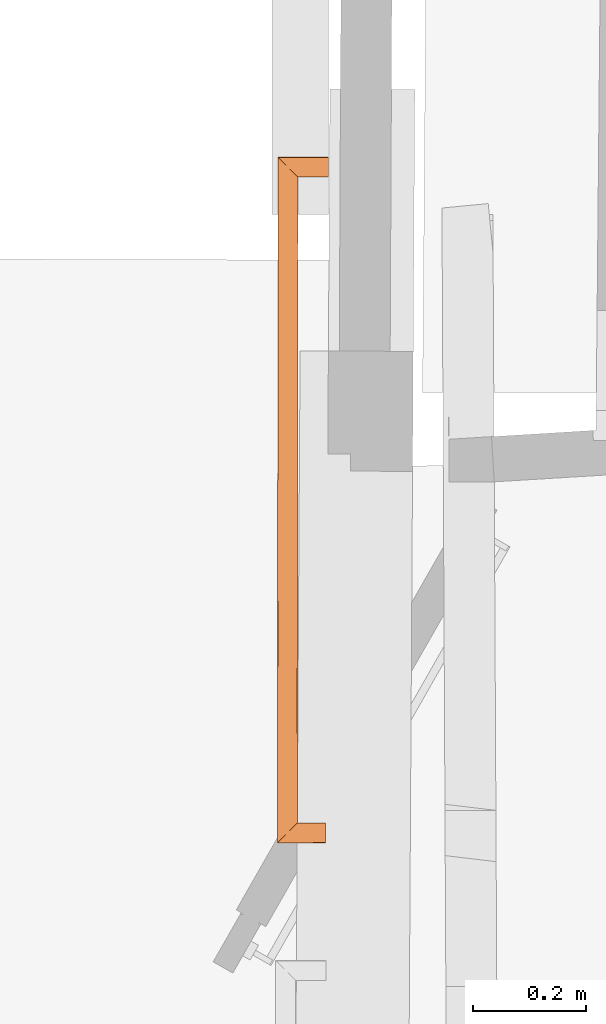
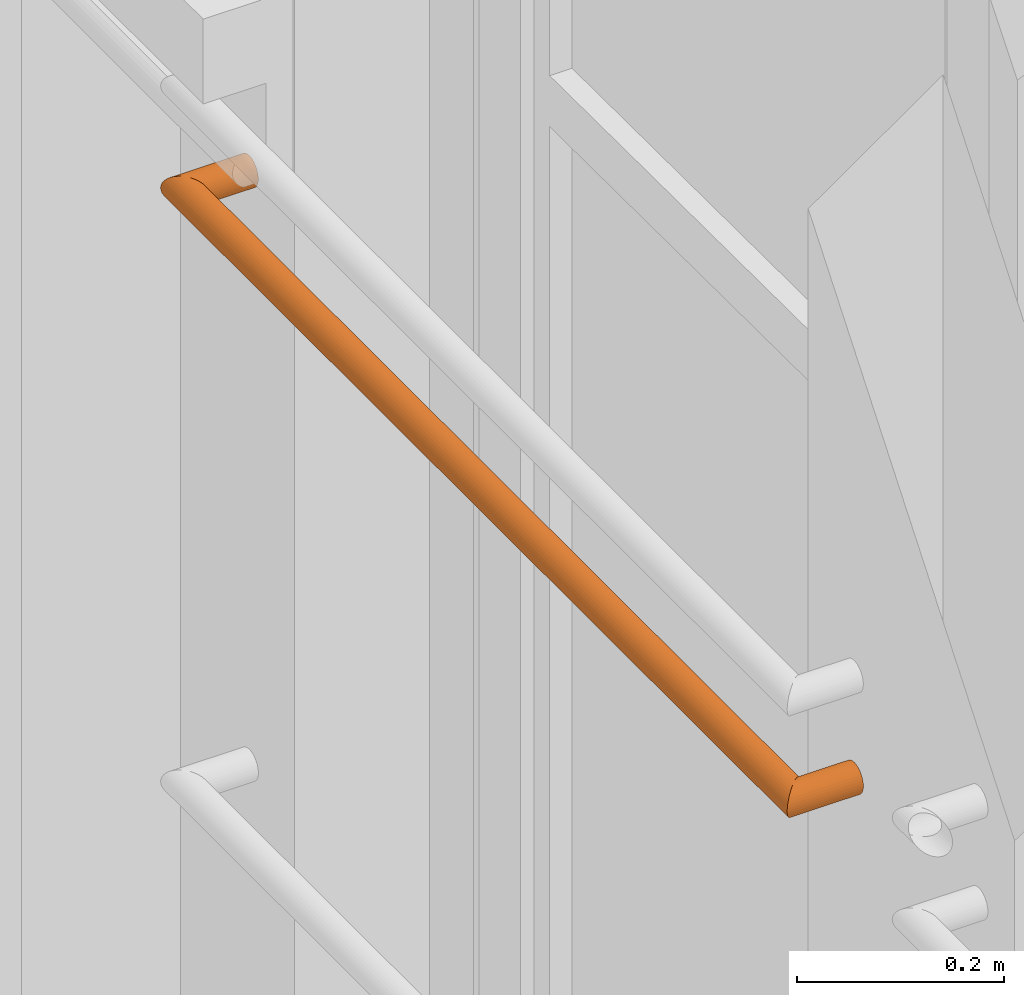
# One storey, part 91 of 97: 1 proxy.
"""IFC2X3 building model written with IfcOpenShell, lengths in centimetres."""

from ifc_helpers import new_model, entity, si_unit, converted_unit, direction, origin, origin_with_axes, place, context, subcontext, project, spatial, faceted_brep, material, type_object, element, save


model = new_model("IFC2X3")

# Units and contexts
model_context = context("Model", 3, precision=0.0001, world=origin(), true_north=direction((0.225632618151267, 0.974212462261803, 0.0)))
body_context = subcontext(model_context, "Body", "Model", "MODEL_VIEW")
ifc_project = project(units=[si_unit("LENGTHUNIT", "METRE", prefix="CENTI"), si_unit("AREAUNIT", "SQUARE_METRE", prefix="CENTI"), si_unit("VOLUMEUNIT", "CUBIC_METRE", prefix="CENTI"), converted_unit("PLANEANGLEUNIT", "DEGREE", entity("IfcRatioMeasure", 0.0174532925), si_unit("PLANEANGLEUNIT", "RADIAN"), dimensions=[0, 0, 0, 0, 0, 0, 0])], contexts=[model_context])

# Site, building, storey
site_placement = place(None, origin_with_axes())
site = spatial("IfcSite", under=ifc_project, at=site_placement, Name="Default Site", CompositionType="ELEMENT")
building_placement = place(site_placement, origin_with_axes())
building = spatial("IfcBuilding", under=site, at=building_placement, Name="Default Building", CompositionType="ELEMENT")
storey_placement = place(building_placement, origin_with_axes())
storey = spatial("IfcBuildingStorey", under=building, at=storey_placement, Name="Rez-de-chaussée", CompositionType="ELEMENT", Elevation=0.0)

# Proxy
ifc_material = material(Name="Aluminium mat")
building_element_proxy_type = type_object("IfcBuildingElementProxyType", Name="Profil [C] Ø35mm", PredefinedType="NOTDEFINED", material=ifc_material)
proxy_placement = place(storey_placement, origin_with_axes())
element("IfcBuildingElementProxy", 1, at=proxy_placement, inside=storey, type_object=building_element_proxy_type, material=ifc_material, Name="Extrusion (solide) 1702446", context=body_context, shape_type="Brep", body=[
    faceted_brep([(-1369.5200920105, -54.8992037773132, 438.000011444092), (-1369.49348449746, -54.8726384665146, 437.696123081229), (-1361.0199928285, -54.8794807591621, 437.696123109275), (-1361.019992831, -54.9060675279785, 438.000011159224), (-1369.49348449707, -54.8726379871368, 437.696123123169), (-1369.41442489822, -54.7937536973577, 437.401484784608), (-1361.01989746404, -54.8005321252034, 437.401484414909), (-1361.01999282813, -54.8794802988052, 437.69612320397), (-1369.41442489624, -54.7937512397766, 437.401485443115), (-1369.2853927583, -54.6649360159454, 437.125016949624), (-1361.01980209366, -54.6716095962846, 437.125015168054), (-1361.01989746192, -54.8005295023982, 437.401484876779), (-1369.28539276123, -54.6649396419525, 437.125015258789), (-1369.11029814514, -54.4900988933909, 436.875114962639), (-1361.01970671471, -54.4966318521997, 436.87511475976), (-1361.01980209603, -54.6716125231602, 437.12501307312), (-1369.11029815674, -54.4901132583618, 436.875104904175), (-1368.8944816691, -54.2746014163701, 436.659418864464), (-1361.01951600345, -54.2809578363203, 436.659416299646), (-1361.01970672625, -54.496646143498, 436.875104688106), (-1368.89448165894, -54.2745888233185, 436.65943145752), (-1368.64433287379, -54.0248961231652, 436.484453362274), (-1361.01932524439, -54.0310532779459, 436.48445336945), (-1361.01951599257, -54.2809443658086, 436.659429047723), (-1368.64433288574, -54.0249109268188, 436.484432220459), (-1368.3676719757, -53.748678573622, 436.355518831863), (-1361.01903916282, -53.7546147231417, 436.35551984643), (-1361.01932525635, -54.0310680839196, 436.484432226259), (-1368.36767196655, -53.7486672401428, 436.355543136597), (-1368.07279586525, -53.4542527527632, 436.276591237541), (-1361.0188484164, -53.4599508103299, 436.276591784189), (-1361.01903915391, -53.7546036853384, 436.355543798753), (-1368.07279586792, -53.4542560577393, 436.276578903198), (-1367.76866913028, -53.1506203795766, 436.249992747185), (-1361.01856231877, -53.1560682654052, 436.249992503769), (-1361.01884841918, -53.4599542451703, 436.276579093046), (-1367.76866912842, -53.1506180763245, 436.250019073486), (-1367.46454239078, -52.8469823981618, 436.2766052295), (-1361.0183715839, -52.8521858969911, 436.276605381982), (-1361.01856231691, -53.1560659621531, 436.250019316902), (-1367.46454238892, -52.8469800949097, 436.276578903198), (-1367.16966628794, -52.5525600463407, 436.35553229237), (-1361.01808547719, -52.5575308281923, 436.355531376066), (-1361.01837158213, -52.8521836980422, 436.27657934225), (-1367.16966629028, -52.5525629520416, 436.355543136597), (-1366.89300537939, -52.2763354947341, 436.484454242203), (-1361.01789475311, -52.2810799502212, 436.484454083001), (-1361.01808547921, -52.5575333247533, 436.355541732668), (-1366.89300537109, -52.2763252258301, 436.484432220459), (-1366.64285658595, -52.0266325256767, 436.659410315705), (-1361.01770399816, -52.0311745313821, 436.659410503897), (-1361.01789474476, -52.2810696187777, 436.484432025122), (-1366.6428565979, -52.0266473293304, 436.65943145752), (-1366.42704011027, -51.8111354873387, 436.875117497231), (-1361.01751328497, -51.8155040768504, 436.87511706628), (-1361.01770401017, -52.0311894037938, 436.659431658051), (-1366.4270401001, -51.8111228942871, 436.875104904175), (-1366.25185011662, -51.636282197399, 437.125005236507), (-1361.01741789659, -51.6405087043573, 437.125005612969), (-1361.01751327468, -51.8154913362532, 436.875104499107), (-1366.25185012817, -51.6362965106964, 437.125015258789), (-1366.12291335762, -51.5074812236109, 437.401483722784), (-1361.01722717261, -51.5116032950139, 437.401485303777), (-1361.01741790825, -51.6405231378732, 437.125015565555), (-1366.1229133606, -51.5074849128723, 437.401485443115), (-1366.04385376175, -51.4286006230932, 437.696123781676), (-1361.01722717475, -51.4326595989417, 437.696123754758), (-1361.01722717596, -51.5116074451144, 437.401486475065), (-1366.04385375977, -51.4285981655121, 437.696123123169), (-1366.01724624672, -51.4020328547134, 438.000011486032), (-1361.01722717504, -51.4060703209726, 438.00001168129), (-1361.01722717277, -51.4326571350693, 437.696123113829), (-1366.01724624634, -51.4020323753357, 438.000011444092), (-1366.04385375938, -51.4285976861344, 438.303899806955), (-1361.01722717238, -51.4326566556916, 438.303899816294), (-1361.01722717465, -51.4060698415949, 438.000011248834), (-1366.04385375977, -51.4285981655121, 438.303899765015), (-1366.12291335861, -51.5074824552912, 438.598538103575), (-1361.01722717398, -51.5116049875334, 438.598537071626), (-1361.01722717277, -51.4326571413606, 438.303899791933), (-1366.1229133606, -51.5074849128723, 438.598537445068), (-1366.25185013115, -51.6363001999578, 438.875005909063), (-1361.01741791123, -51.6405268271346, 438.875005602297), (-1361.01722717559, -51.5116069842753, 438.598535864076), (-1366.25185012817, -51.6362965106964, 438.875007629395), (-1366.42704009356, -51.8111148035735, 439.124875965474), (-1361.01751326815, -51.8154832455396, 439.124876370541), (-1361.01741790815, -51.6405230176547, 438.875007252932), (-1366.4270401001, -51.8111228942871, 439.124870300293), (-1366.64285660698, -52.0266585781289, 439.340580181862), (-1361.01770401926, -52.0312006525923, 439.34057998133), (-1361.0175132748, -51.8154914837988, 439.124870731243), (-1366.6428565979, -52.0266473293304, 439.340591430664), (-1366.89300536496, -52.2763176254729, 439.515553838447), (-1361.01789473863, -52.2810620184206, 439.515554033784), (-1361.01770401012, -52.0311893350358, 439.340591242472), (-1366.89300537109, -52.2763252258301, 439.515542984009), (-1367.16966629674, -52.552570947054, 439.644462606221), (-1361.01808548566, -52.5575413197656, 439.64446401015), (-1361.01789474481, -52.2810696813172, 439.515543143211), (-1367.16966629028, -52.5525629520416, 439.644479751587), (-1367.46454238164, -52.8469710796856, 439.723429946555), (-1361.01837157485, -52.8521746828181, 439.723429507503), (-1361.01808547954, -52.5575337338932, 439.64448066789), (-1367.46454238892, -52.8469800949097, 439.72339630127), (-1367.7686691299, -53.1506199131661, 439.749982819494), (-1361.01856231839, -53.1560677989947, 439.749982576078), (-1361.01837158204, -52.852183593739, 439.723396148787), (-1367.76866912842, -53.1506180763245, 439.750003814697), (-1368.0727958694, -53.4542578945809, 439.723417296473), (-1361.01884842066, -53.4599560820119, 439.723417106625), (-1361.01856231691, -53.1560659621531, 439.750004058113), (-1368.07279586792, -53.4542560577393, 439.72339630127), (-1368.3676719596, -53.748658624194, 439.644447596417), (-1361.01903914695, -53.7545950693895, 439.644446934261), (-1361.01884841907, -53.459954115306, 439.723395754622), (-1368.36767196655, -53.7486672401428, 439.644479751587), (-1368.64433289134, -54.024917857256, 439.515557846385), (-1361.01932526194, -54.0310750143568, 439.515557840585), (-1361.01903915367, -53.7546033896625, 439.644478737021), (-1368.64433288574, -54.0249109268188, 439.515542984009), (-1368.8944816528, -54.2745812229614, 439.340580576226), (-1361.01951598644, -54.2809367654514, 439.340582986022), (-1361.01932525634, -54.0310680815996, 439.515542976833), (-1368.89448165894, -54.2745888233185, 439.340591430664), (-1369.11029816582, -54.4901245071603, 439.124881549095), (-1361.01970673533, -54.4966573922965, 439.124881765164), (-1361.01951599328, -54.2809452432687, 439.340593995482), (-1369.11029815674, -54.4901132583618, 439.124870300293), (-1369.28539275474, -54.6649316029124, 438.875002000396), (-1361.01980208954, -54.6716044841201, 438.875004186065), (-1361.01970672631, -54.4966462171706, 439.124870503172), (-1369.28539276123, -54.6649396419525, 438.875007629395), (-1369.41442489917, -54.7937548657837, 438.598539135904), (-1361.01989746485, -54.8005331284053, 438.59853970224), (-1361.01980209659, -54.6716132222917, 438.875009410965), (-1369.41442489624, -54.7937512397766, 438.598537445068), (-1369.49348449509, -54.8726355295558, 438.303899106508), (-1361.01999282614, -54.8794778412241, 438.303899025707), (-1361.01989746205, -54.8005296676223, 438.598537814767), (-1369.49348449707, -54.8726379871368, 438.303899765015), (-1369.52009201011, -54.8992032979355, 438.000011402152), (-1361.01999283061, -54.9060670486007, 438.000011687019), (-1361.01999282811, -54.8794802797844, 438.303899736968), (-1369.42224502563, 66.2952899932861, 438.000011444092), (-1369.39567937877, 66.2687063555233, 437.696119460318), (-1369.49350043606, -54.8726379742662, 437.696121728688), (-1369.52010867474, -54.899203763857, 438.000009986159), (-1369.39563751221, 66.2687063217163, 437.696123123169), (-1369.31675433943, 66.1897539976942, 437.401489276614), (-1369.41444525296, -54.7937512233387, 437.401479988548), (-1369.49346011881, -54.8726380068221, 437.696129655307), (-1369.31676864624, 66.1897540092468, 437.401485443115), (-1369.1879480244, 66.0608351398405, 437.125005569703), (-1369.28542977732, -54.6649396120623, 437.124997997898), (-1369.41445541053, -54.7937512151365, 437.401471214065), (-1369.18792724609, 66.0608351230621, 437.125015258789), (-1369.01309230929, 65.8858716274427, 436.875123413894), (-1369.1102874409, -54.4901132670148, 436.87511240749), (-1369.28540603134, -54.664939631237, 437.125005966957), (-1369.0131187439, 65.8858716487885, 436.875104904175), (-1368.79760387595, 65.6701684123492, 436.659415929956), (-1368.89447784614, -54.2745888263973, 436.659435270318), (-1369.11030987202, -54.4901132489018, 436.875093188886), (-1368.79758834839, 65.6701683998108, 436.65943145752), (-1368.54789957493, 65.4202937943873, 436.484456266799), (-1368.64432748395, -54.0249109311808, 436.484439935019), (-1368.8944689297, -54.2745888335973, 436.659449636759), (-1368.54791641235, 65.4202938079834, 436.484432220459), (-1368.27165465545, 65.1438295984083, 436.355505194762), (-1368.36768428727, -53.7486672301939, 436.355516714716), (-1368.64433909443, -54.0249109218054, 436.484418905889), (-1368.27163696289, 65.1438295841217, 436.355543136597), (-1367.97723358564, 64.8491799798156, 436.276594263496), (-1368.07278981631, -53.4542560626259, 436.276601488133), (-1368.36766995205, -53.7486672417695, 436.355550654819), (-1367.97723770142, 64.849179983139, 436.276578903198), (-1367.67359019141, 64.545291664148, 436.249991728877), (-1367.7686711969, -53.1506180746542, 436.249995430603), (-1368.0727956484, -53.4542560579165, 436.27658141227), (-1367.67358779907, 64.5452916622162, 436.250019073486), (-1367.37003493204, 64.2414093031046, 436.276597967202), (-1367.46454435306, -52.8469800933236, 436.276601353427), (-1367.76866880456, -53.150618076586, 436.25001537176), (-1367.37003326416, 64.2414093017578, 436.276578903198), (-1367.07554090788, 63.9467597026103, 436.355551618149), (-1367.16966486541, -52.5525629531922, 436.355537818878), (-1367.46454500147, -52.8469800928, 436.276588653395), (-1367.07553863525, 63.9467597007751, 436.355543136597), (-1366.79935521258, 63.6702954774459, 436.484433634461), (-1366.89300162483, -52.2763252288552, 436.484424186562), (-1367.16965643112, -52.5525629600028, 436.355521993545), (-1366.79935455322, 63.6702954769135, 436.484432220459), (-1366.54966578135, 63.4204149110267, 436.659407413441), (-1366.6428558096, -52.026647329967, 436.659430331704), (-1366.89299725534, -52.2763252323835, 436.484420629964), (-1366.54968261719, 63.4204149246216, 436.65943145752), (-1366.33416774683, 63.2047176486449, 436.875120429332), (-1366.42704896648, -51.8111228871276, 436.875113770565), (-1366.64288099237, -52.0266473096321, 436.659455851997), (-1366.33415222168, 63.2047176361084, 436.875104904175), (-1366.1593172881, 63.0297481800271, 437.124996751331), (-1366.25188119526, -51.6362964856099, 437.125037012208), (-1366.42703116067, -51.8111229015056, 436.875098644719), (-1366.15934371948, 63.0297482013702, 437.125015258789), (-1366.03052309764, 62.9008293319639, 437.401495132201), (-1366.12291190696, -51.5074849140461, 437.401484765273), (-1366.2519205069, -51.636296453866, 437.125048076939), (-1366.03050231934, 62.9008293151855, 437.401485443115), (-1365.95161914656, 62.8218769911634, 437.696119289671), (-1366.04387324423, -51.4285981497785, 437.696128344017), (-1366.12288811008, -51.5074849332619, 437.401478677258), (-1365.95163345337, 62.8218770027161, 437.696123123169), (-1365.9250678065, 62.7952933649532, 438.000015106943), (-1366.0172814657, -51.4020323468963, 438.000014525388), (-1366.04388970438, -51.428598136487, 437.696126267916), (-1365.92502593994, 62.7952933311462, 438.000011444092), (-1365.95159158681, 62.8218769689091, 438.303903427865), (-1366.04384783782, -51.428598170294, 438.303900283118), (-1366.01723959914, -51.4020323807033, 438.000012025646), (-1365.95163345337, 62.8218770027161, 438.303899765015), (-1366.03051662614, 62.9008293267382, 438.59853361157), (-1366.12290241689, -51.5074849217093, 438.598540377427), (-1366.04388755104, -51.4285981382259, 438.303890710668), (-1366.03050231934, 62.9008293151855, 438.598537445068), (-1366.15932294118, 63.0297481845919, 438.875017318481), (-1366.2518997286, -51.6362964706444, 438.87498450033), (-1366.12289112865, -51.5074849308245, 438.598547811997), (-1366.15934371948, 63.0297482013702, 438.875007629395), (-1366.33415624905, 63.2047176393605, 439.124867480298), (-1366.42703518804, -51.8111228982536, 439.124873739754), (-1366.25190762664, -51.6362964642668, 438.874967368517), (-1366.33415222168, 63.2047176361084, 439.124870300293), (-1366.54969093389, 63.4204149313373, 439.340583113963), (-1366.64288930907, -52.0266473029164, 439.340558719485), (-1366.42703344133, -51.811122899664, 439.12487695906), (-1366.54968261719, 63.4204149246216, 439.340591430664), (-1366.79934898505, 63.6702954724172, 439.515550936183), (-1366.89299168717, -52.2763252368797, 439.515562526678), (-1366.64287264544, -52.0266473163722, 439.340568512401), (-1366.79935455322, 63.6702954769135, 439.515542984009), (-1367.07555623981, 63.9467597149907, 439.64444199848), (-1367.16967403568, -52.5525629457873, 439.644463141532), (-1366.89300096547, -52.2763252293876, 439.515552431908), (-1367.07553863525, 63.9467597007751, 439.644479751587), (-1367.37001907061, 64.2414092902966, 439.723449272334), (-1367.46453080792, -52.8469801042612, 439.723439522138), (-1367.16966259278, -52.5525629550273, 439.644493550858), (-1367.37003326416, 64.2414093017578, 439.72339630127), (-1367.67359027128, 64.5452916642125, 439.749975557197), (-1367.76867127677, -53.1506180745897, 439.749979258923), (-1367.46454268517, -52.8469800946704, 439.723392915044), (-1367.67358779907, 64.5452916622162, 439.750003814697), (-1367.97723944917, 64.8491799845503, 439.723416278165), (-1368.07279739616, -53.4542560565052, 439.723413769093), (-1367.76866880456, -53.150618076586, 439.750000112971), (-1367.97723770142, 64.849179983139, 439.72339630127), (-1368.27162915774, 65.1438295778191, 439.644450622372), (-1368.3676621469, -53.7486672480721, 439.64444310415), (-1368.07279393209, -53.4542560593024, 439.723389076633), (-1368.27163696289, 65.1438295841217, 439.644479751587), (-1368.54791698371, 65.4202938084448, 439.515544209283), (-1368.64433966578, -54.024910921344, 439.515557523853), (-1368.36766659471, -53.7486672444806, 439.644468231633), (-1368.54791641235, 65.4202938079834, 439.515542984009), (-1368.7975827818, 65.6701683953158, 439.340583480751), (-1368.89446336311, -54.2745888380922, 439.340565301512), (-1368.64434432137, -54.0249109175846, 439.515559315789), (-1368.79758834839, 65.6701683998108, 439.340591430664), (-1369.01312705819, 65.8858716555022, 439.124878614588), (-1369.11031818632, -54.4901132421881, 439.124890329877), (-1368.89446231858, -54.2745888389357, 439.340572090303), (-1369.0131187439, 65.8858716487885, 439.124870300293), (-1369.18793127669, 66.0608351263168, 438.875010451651), (-1369.28541006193, -54.6649396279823, 438.875019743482), (-1369.11031387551, -54.490113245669, 439.124881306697), (-1369.18792724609, 66.0608351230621, 438.875007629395), (-1369.31674786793, 66.1897539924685, 438.598527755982), (-1369.41443463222, -54.7937512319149, 438.598541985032), (-1369.28540899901, -54.6649396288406, 438.875015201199), (-1369.31676864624, 66.1897540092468, 438.598537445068), (-1369.39565181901, 66.268706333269, 438.303903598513), (-1369.49347442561, -54.8726379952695, 438.303897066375), (-1369.41445955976, -54.793751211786, 438.598546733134), (-1369.39563751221, 66.2687063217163, 438.303899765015), (-1369.42220315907, 66.2952899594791, 438.000007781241), (-1369.52006680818, -54.8992037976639, 438.000009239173), (-1369.4934585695, -54.8726380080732, 438.303897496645), (-1360.53228378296, 66.2952899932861, 438.000011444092), (-1360.53228378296, 66.2687032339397, 437.696123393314), (-1369.39563751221, 66.2687032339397, 437.696123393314), (-1360.53228378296, 66.2687063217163, 437.696123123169), (-1360.53228378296, 66.1897580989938, 437.401484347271), (-1369.31676864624, 66.1897580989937, 437.401484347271), (-1369.39563751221, 66.2687063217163, 437.696123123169), (-1360.53228378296, 66.1897540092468, 437.401485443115), (-1360.53228378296, 66.0608340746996, 437.125015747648), (-1369.18792724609, 66.0608340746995, 437.125015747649), (-1360.53228378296, 66.0608351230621, 437.125015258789), (-1360.53228378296, 65.8858544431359, 436.875116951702), (-1369.0131187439, 65.8858544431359, 436.875116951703), (-1360.53228378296, 65.8858716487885, 436.875104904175), (-1360.53228378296, 65.670183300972, 436.659416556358), (-1368.79758834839, 65.6701833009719, 436.659416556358), (-1369.0131187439, 65.8858716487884, 436.875104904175), (-1360.53228378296, 65.6701683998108, 436.65943145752), (-1360.53228378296, 65.4202772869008, 436.48445581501), (-1368.54791641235, 65.4202772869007, 436.48445581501), (-1368.79758834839, 65.6701683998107, 436.65943145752), (-1360.53228378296, 65.4202938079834, 436.484432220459), (-1360.53228378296, 65.143840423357, 436.355519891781), (-1368.27163696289, 65.1438404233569, 436.355519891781), (-1360.53228378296, 65.1438295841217, 436.355543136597), (-1360.53228378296, 64.8491767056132, 436.276591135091), (-1367.97723770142, 64.8491767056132, 436.276591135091), (-1360.53228378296, 64.849179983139, 436.276578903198), (-1360.53228378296, 64.5452940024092, 436.249992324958), (-1367.67358779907, 64.5452940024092, 436.249992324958), (-1360.53228378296, 64.5452916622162, 436.250019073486), (-1360.53228378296, 64.2414115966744, 436.276605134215), (-1367.37003326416, 64.2414115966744, 436.276605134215), (-1367.67358779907, 64.5452916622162, 436.250019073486), (-1360.53228378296, 64.2414093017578, 436.276578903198), (-1360.53228378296, 63.9467564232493, 436.355530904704), (-1367.07553863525, 63.9467564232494, 436.355530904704), (-1360.53228378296, 63.9467597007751, 436.355543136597), (-1360.53228378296, 63.6703063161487, 436.484455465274), (-1366.79935455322, 63.6703063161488, 436.484455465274), (-1367.07553863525, 63.9467597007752, 436.355543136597), (-1360.53228378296, 63.6702954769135, 436.484432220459), (-1360.53228378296, 63.4204003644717, 436.659410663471), (-1366.54968261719, 63.4204003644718, 436.659410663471), (-1366.79935455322, 63.6702954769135, 436.484432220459), (-1360.53228378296, 63.4204149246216, 436.65943145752), (-1360.53228378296, 63.2047295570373, 436.875116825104), (-1366.33415222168, 63.2047295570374, 436.875116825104), (-1360.53228378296, 63.2047176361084, 436.875104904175), (-1360.53228378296, 63.0297349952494, 437.125006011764), (-1366.15934371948, 63.0297349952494, 437.125006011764), (-1360.53228378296, 63.0297482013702, 437.125015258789), (-1360.53228378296, 62.900828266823, 437.401484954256), (-1366.03050231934, 62.900828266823, 437.401484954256), (-1366.15934371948, 63.0297482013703, 437.125015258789), (-1360.53228378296, 62.9008293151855, 437.401485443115), (-1360.53228378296, 62.821881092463, 437.696124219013), (-1365.95163345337, 62.8218810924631, 437.696124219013), (-1366.03050231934, 62.9008293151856, 437.401485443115), (-1360.53228378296, 62.8218770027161, 437.696123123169), (-1360.53228378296, 62.7952902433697, 438.000011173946), (-1365.92502593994, 62.7952902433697, 438.000011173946), (-1360.53228378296, 62.7952933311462, 438.000011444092), (-1360.53228378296, 62.8218800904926, 438.303899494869), (-1365.95163345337, 62.8218800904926, 438.303899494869), (-1360.53228378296, 62.8218770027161, 438.303899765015), (-1360.53228378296, 62.9008252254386, 438.598538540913), (-1366.03050231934, 62.9008252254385, 438.598538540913), (-1365.95163345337, 62.821877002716, 438.303899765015), (-1360.53228378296, 62.9008293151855, 438.598537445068), (-1360.53228378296, 63.0297492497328, 438.875007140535), (-1366.15934371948, 63.0297492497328, 438.875007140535), (-1360.53228378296, 63.0297482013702, 438.875007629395), (-1360.53228378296, 63.2047084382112, 439.12487674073), (-1366.33415222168, 63.2047084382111, 439.12487674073), (-1360.53228378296, 63.2047176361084, 439.124870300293), (-1360.53228378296, 63.4204268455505, 439.340579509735), (-1366.54968261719, 63.4204268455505, 439.340579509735), (-1366.33415222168, 63.2047176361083, 439.124870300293), (-1360.53228378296, 63.4204149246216, 439.340591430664), (-1360.53228378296, 63.6702876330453, 439.515554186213), (-1366.79935455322, 63.6702876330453, 439.515554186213), (-1360.53228378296, 63.6702954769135, 439.515542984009), (-1360.53228378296, 63.9467671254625, 439.644463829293), (-1367.07553863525, 63.9467671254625, 439.644463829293), (-1360.53228378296, 63.9467597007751, 439.644479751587), (-1360.53228378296, 64.2414006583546, 439.723428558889), (-1367.37003326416, 64.2414006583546, 439.723428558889), (-1360.53228378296, 64.2414093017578, 439.72339630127), (-1360.53228378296, 64.5452935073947, 439.74998272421), (-1367.67358779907, 64.5452935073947, 439.74998272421), (-1360.53228378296, 64.5452916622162, 439.750003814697), (-1360.53228378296, 64.8491817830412, 439.723416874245), (-1367.97723770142, 64.8491817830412, 439.723416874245), (-1360.53228378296, 64.849179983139, 439.72339630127), (-1360.53228378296, 65.1438209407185, 439.644447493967), (-1368.27163696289, 65.1438209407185, 439.644447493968), (-1367.97723770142, 64.8491799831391, 439.72339630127), (-1360.53228378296, 65.1438295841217, 439.644479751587), (-1360.53228378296, 65.4203012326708, 439.515558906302), (-1368.54791641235, 65.4203012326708, 439.515558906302), (-1360.53228378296, 65.4202938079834, 439.515542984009), (-1360.53228378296, 65.6701625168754, 439.340583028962), (-1368.79758834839, 65.6701625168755, 439.340583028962), (-1360.53228378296, 65.6701683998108, 439.340591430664), (-1360.53228378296, 65.8858805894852, 439.12487924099), (-1369.0131187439, 65.8858805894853, 439.12487924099), (-1368.79758834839, 65.6701683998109, 439.340591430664), (-1360.53228378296, 65.8858716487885, 439.124870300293), (-1360.53228378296, 66.0608299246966, 438.87500398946), (-1369.18792724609, 66.0608299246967, 438.87500398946), (-1369.0131187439, 65.8858716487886, 439.124870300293), (-1360.53228378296, 66.0608351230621, 438.875007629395), (-1360.53228378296, 66.1897550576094, 438.598537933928), (-1369.31676864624, 66.1897550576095, 438.598537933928), (-1369.18792724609, 66.0608351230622, 438.875007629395), (-1360.53228378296, 66.1897540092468, 438.598537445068), (-1360.53228378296, 66.2687022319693, 438.30389866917), (-1369.39563751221, 66.2687022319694, 438.30389866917), (-1369.31676864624, 66.1897540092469, 438.598537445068), (-1360.53228378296, 66.2687063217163, 438.303899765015), (-1360.53228378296, 66.2952930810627, 438.000011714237), (-1369.42224502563, 66.2952930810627, 438.000011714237), (-1361.01999282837, -54.9060642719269, 438.000011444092), (-1361.01997136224, -54.8794806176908, 437.696123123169), (-1361.01990760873, -54.8005282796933, 437.401485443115), (-1361.01980350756, -54.671609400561, 437.125015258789), (-1361.01966222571, -54.496645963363, 436.875104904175), (-1361.01948804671, -54.2809427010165, 436.65943145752), (-1361.01928627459, -54.0310681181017, 436.484432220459), (-1361.01906303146, -53.7546038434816, 436.355543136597), (-1361.01882510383, -53.4599542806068, 436.276578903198), (-1361.01857971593, -53.1560659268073, 436.250019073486), (-1361.01833433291, -52.852183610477, 436.276578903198), (-1361.01809640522, -52.5575339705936, 436.355543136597), (-1361.01787316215, -52.2810697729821, 436.484432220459), (-1361.01767138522, -52.0311892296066, 436.65943145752), (-1361.01749721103, -51.8154919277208, 436.875104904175), (-1361.01735592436, -51.6405225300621, 437.125015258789), (-1361.01725182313, -51.5116035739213, 437.401485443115), (-1361.0171880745, -51.432657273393, 437.696123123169), (-1361.01716660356, -51.4060676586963, 438.000011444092), (-1361.0171880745, -51.432657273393, 438.303899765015), (-1361.01725182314, -51.5116035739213, 438.598537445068), (-1361.01735592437, -51.6405225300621, 438.875007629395), (-1361.01749721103, -51.8154919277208, 439.124870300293), (-1361.01767138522, -52.0311892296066, 439.340591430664), (-1361.01787316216, -52.2810697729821, 439.515542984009), (-1361.01809640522, -52.5575339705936, 439.644479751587), (-1361.01833433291, -52.852183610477, 439.72339630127), (-1361.01857971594, -53.1560659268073, 439.750003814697), (-1361.01882510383, -53.4599542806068, 439.72339630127), (-1361.01906303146, -53.7546038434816, 439.644479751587), (-1361.01928627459, -54.0310681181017, 439.515542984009), (-1361.01948804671, -54.2809427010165, 439.340591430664), (-1361.01966222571, -54.496645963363, 439.124870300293), (-1361.01980350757, -54.671609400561, 438.875007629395), (-1361.01990760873, -54.8005282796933, 438.598537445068), (-1361.01997136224, -54.8794806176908, 438.303899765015)], [[[0, 1, 2, 3]], [[4, 5, 6, 7]], [[8, 9, 10, 11]], [[12, 13, 14, 15]], [[16, 17, 18, 19]], [[20, 21, 22, 23]], [[24, 25, 26, 27]], [[28, 29, 30, 31]], [[32, 33, 34, 35]], [[36, 37, 38, 39]], [[40, 41, 42, 43]], [[44, 45, 46, 47]], [[48, 49, 50, 51]], [[52, 53, 54, 55]], [[56, 57, 58, 59]], [[60, 61, 62, 63]], [[64, 65, 66, 67]], [[68, 69, 70, 71]], [[72, 73, 74, 75]], [[76, 77, 78, 79]], [[80, 81, 82, 83]], [[84, 85, 86, 87]], [[88, 89, 90, 91]], [[92, 93, 94, 95]], [[96, 97, 98, 99]], [[100, 101, 102, 103]], [[104, 105, 106, 107]], [[108, 109, 110, 111]], [[112, 113, 114, 115]], [[116, 117, 118, 119]], [[120, 121, 122, 123]], [[124, 125, 126, 127]], [[128, 129, 130, 131]], [[132, 133, 134, 135]], [[136, 137, 138, 139]], [[140, 141, 142, 143]], [[144, 145, 146, 147]], [[148, 149, 150, 151]], [[152, 153, 154, 155]], [[156, 157, 158, 159]], [[160, 161, 162, 163]], [[164, 165, 166, 167]], [[168, 169, 170, 171]], [[172, 173, 174, 175]], [[176, 177, 178, 179]], [[180, 181, 182, 183]], [[184, 185, 186, 187]], [[188, 189, 190, 191]], [[192, 193, 194, 195]], [[196, 197, 198, 199]], [[200, 201, 202, 203]], [[204, 205, 206, 207]], [[208, 209, 210, 211]], [[212, 213, 214, 215]], [[216, 217, 218, 219]], [[220, 221, 222, 223]], [[224, 225, 226, 227]], [[228, 229, 230, 231]], [[232, 233, 234, 235]], [[236, 237, 238, 239]], [[240, 241, 242, 243]], [[244, 245, 246, 247]], [[248, 249, 250, 251]], [[252, 253, 254, 255]], [[256, 257, 258, 259]], [[260, 261, 262, 263]], [[264, 265, 266, 267]], [[268, 269, 270, 271]], [[272, 273, 274, 275]], [[276, 277, 278, 279]], [[280, 281, 282, 283]], [[284, 285, 286, 287]], [[288, 289, 290, 144]], [[291, 292, 293, 294]], [[295, 296, 297, 152]], [[298, 299, 300, 156]], [[301, 302, 303, 304]], [[305, 306, 307, 308]], [[309, 310, 311, 168]], [[312, 313, 314, 172]], [[315, 316, 317, 176]], [[318, 319, 320, 321]], [[322, 323, 324, 184]], [[325, 326, 327, 328]], [[329, 330, 331, 332]], [[333, 334, 335, 196]], [[336, 337, 338, 200]], [[339, 340, 341, 342]], [[343, 344, 345, 346]], [[347, 348, 349, 212]], [[350, 351, 352, 216]], [[353, 354, 355, 356]], [[357, 358, 359, 224]], [[360, 361, 362, 228]], [[363, 364, 365, 366]], [[367, 368, 369, 236]], [[370, 371, 372, 240]], [[373, 374, 375, 244]], [[376, 377, 378, 248]], [[379, 380, 381, 252]], [[382, 383, 384, 385]], [[386, 387, 388, 260]], [[389, 390, 391, 264]], [[392, 393, 394, 395]], [[396, 397, 398, 399]], [[400, 401, 402, 403]], [[404, 405, 406, 407]], [[408, 409, 410, 284]], [[411, 412, 413, 414, 415, 416, 417, 418, 419, 420, 421, 422, 423, 424, 425, 426, 427, 428, 429, 430, 431, 432, 433, 434, 435, 436, 437, 438, 439, 440, 441, 442, 443, 444, 445, 446]], [[408, 404, 400, 396, 392, 389, 386, 382, 379, 376, 373, 370, 367, 363, 360, 357, 353, 350, 347, 343, 339, 336, 333, 329, 325, 322, 318, 315, 312, 309, 305, 301, 298, 295, 291, 288]]]),
])

save(model, "model.ifc")
